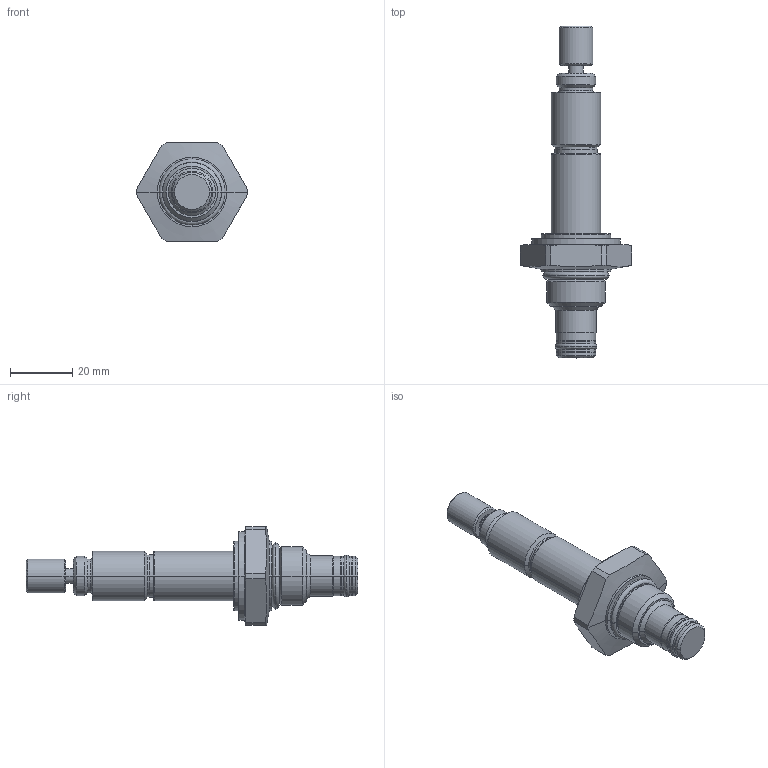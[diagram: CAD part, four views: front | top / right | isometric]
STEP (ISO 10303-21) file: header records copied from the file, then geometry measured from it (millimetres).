
FILE_DESCRIPTION((''),'2;1');
FILE_NAME('5008103_SW0001','2009-03-04T',('jcs'),(''),'PRO/ENGINEER BY PARAMETRIC TECHNOLOGY CORPORATION, 2008010','PRO/ENGINEER BY PARAMETRIC TECHNOLOGY CORPORATION, 2008010','');
FILE_SCHEMA(('CONFIG_CONTROL_DESIGN'));
Length unit declared in the file: inch
Products named in the file (1): 5008103_SW0001
Bounding box: 35.69 x 106.54 x 31.75 mm (x, y, z)
Volume: 24670.9 mm3; surface area: 8419.8 mm2
Topology: 3 solids, 4 shells, 171 faces, 360 edges, 205 vertices
Faces by surface type: cone 58, cylinder 56, plane 23, torus 18, revolution 16
Entity records: 4954 total; most frequent: CARTESIAN_POINT 1190, DIRECTION 852, ORIENTED_EDGE 716, AXIS2_PLACEMENT_3D 359, EDGE_CURVE 358, VERTEX_POINT 205, CIRCLE 204, EDGE_LOOP 185
